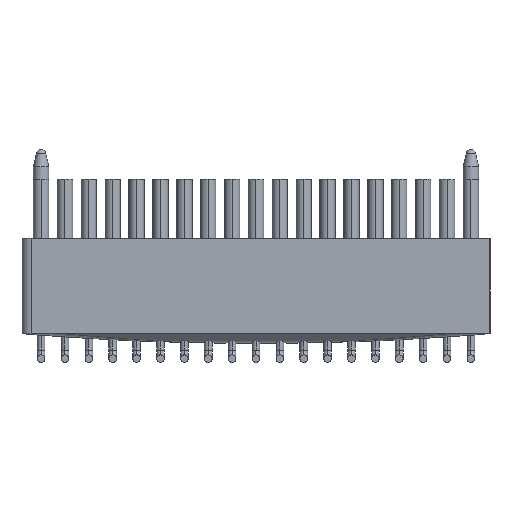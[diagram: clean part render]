
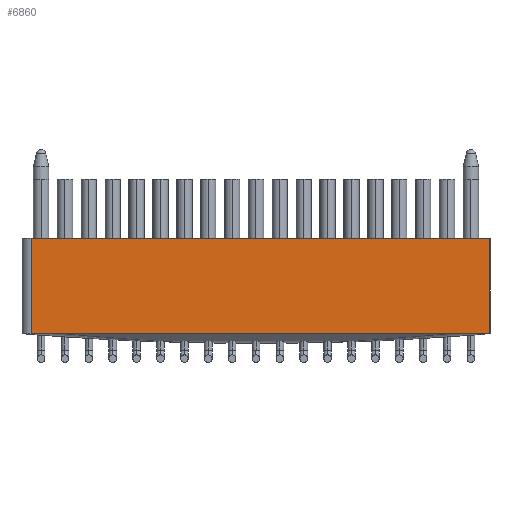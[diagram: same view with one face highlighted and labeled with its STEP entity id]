
A CAD part, front view. The second image highlights one B-rep face of the part: STEP entity #6860.
In plain terms, the highlighted planar face has unit normal (0, -1, 0).
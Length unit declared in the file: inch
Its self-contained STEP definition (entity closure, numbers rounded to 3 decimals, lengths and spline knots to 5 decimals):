
#490 = CARTESIAN_POINT ( 'NONE',  ( -0.235, -0.035, -0.05 ) ) ;
#684 = CARTESIAN_POINT ( 'NONE',  ( -0.245, -0.035, -0.05 ) ) ;
#1383 = ORIENTED_EDGE ( 'NONE', *, *, #22898, .F. ) ;
#1527 = LINE ( 'NONE', #684, #10428 ) ;
#1822 = LINE ( 'NONE', #9060, #20294 ) ;
#2771 = CARTESIAN_POINT ( 'NONE',  ( -0.245, -0.035, -0.05 ) ) ;
#3072 = DIRECTION ( 'NONE',  ( 0., 0., -1. ) ) ;
#3277 = EDGE_CURVE ( 'NONE', #19120, #13834, #22110, .T. ) ;
#3559 = CARTESIAN_POINT ( 'NONE',  ( -0.20198, -0.035, -0.05 ) ) ;
#5146 = VECTOR ( 'NONE', #13475, 39.37008 ) ;
#6391 = EDGE_CURVE ( 'NONE', #20004, #20027, #9891, .T. ) ;
#6596 = DIRECTION ( 'NONE',  ( -1., 0., 0. ) ) ;
#6860 = ADVANCED_FACE ( 'NONE', ( #10996 ), #8273, .T. ) ;
#7042 = ORIENTED_EDGE ( 'NONE', *, *, #20343, .T. ) ;
#7449 = EDGE_CURVE ( 'NONE', #17746, #13834, #1527, .T. ) ;
#7827 = EDGE_LOOP ( 'NONE', ( #18369, #7042, #23117, #10234, #21144, #1383 ) ) ;
#8273 = PLANE ( 'NONE',  #13446 ) ;
#9060 = CARTESIAN_POINT ( 'NONE',  ( 0.245, -0.035, -0.05 ) ) ;
#9334 = DIRECTION ( 'NONE',  ( 0., 0., -1. ) ) ;
#9793 = VECTOR ( 'NONE', #6596, 39.37008 ) ;
#9891 = LINE ( 'NONE', #2771, #5146 ) ;
#10172 = CARTESIAN_POINT ( 'NONE',  ( -0.245, -0.035, -0.05 ) ) ;
#10234 = ORIENTED_EDGE ( 'NONE', *, *, #3277, .T. ) ;
#10428 = VECTOR ( 'NONE', #11424, 39.37008 ) ;
#10798 = LINE ( 'NONE', #17118, #19782 ) ;
#10996 = FACE_OUTER_BOUND ( 'NONE', #7827, .T. ) ;
#11157 = CARTESIAN_POINT ( 'NONE',  ( -0.235, -0.035, -0.05 ) ) ;
#11424 = DIRECTION ( 'NONE',  ( -1., 0., 0. ) ) ;
#11913 = CARTESIAN_POINT ( 'NONE',  ( 0.2425, -0.035, -0.05 ) ) ;
#12534 = VECTOR ( 'NONE', #9334, 39.37008 ) ;
#13446 = AXIS2_PLACEMENT_3D ( 'NONE', #10172, #13773, #3072 ) ;
#13475 = DIRECTION ( 'NONE',  ( -1., 0., 0. ) ) ;
#13773 = DIRECTION ( 'NONE',  ( 0., -1., 0. ) ) ;
#13834 = VERTEX_POINT ( 'NONE', #11157 ) ;
#14550 = LINE ( 'NONE', #11913, #9793 ) ;
#15240 = CARTESIAN_POINT ( 'NONE',  ( -0.235, -0.035, 0.05 ) ) ;
#15302 = DIRECTION ( 'NONE',  ( 1., 0., 0. ) ) ;
#16273 = DIRECTION ( 'NONE',  ( 0., 0., 1. ) ) ;
#16850 = CARTESIAN_POINT ( 'NONE',  ( 0.20198, -0.035, -0.05 ) ) ;
#17118 = CARTESIAN_POINT ( 'NONE',  ( -0.245, -0.035, 0.05 ) ) ;
#17746 = VERTEX_POINT ( 'NONE', #3559 ) ;
#18369 = ORIENTED_EDGE ( 'NONE', *, *, #6391, .F. ) ;
#18597 = CARTESIAN_POINT ( 'NONE',  ( 0.245, -0.035, -0.05 ) ) ;
#18701 = EDGE_CURVE ( 'NONE', #19120, #22036, #10798, .T. ) ;
#19120 = VERTEX_POINT ( 'NONE', #15240 ) ;
#19782 = VECTOR ( 'NONE', #15302, 39.37008 ) ;
#20004 = VERTEX_POINT ( 'NONE', #18597 ) ;
#20027 = VERTEX_POINT ( 'NONE', #16850 ) ;
#20294 = VECTOR ( 'NONE', #16273, 39.37008 ) ;
#20343 = EDGE_CURVE ( 'NONE', #20004, #22036, #1822, .T. ) ;
#21144 = ORIENTED_EDGE ( 'NONE', *, *, #7449, .F. ) ;
#21548 = CARTESIAN_POINT ( 'NONE',  ( 0.245, -0.035, 0.05 ) ) ;
#22036 = VERTEX_POINT ( 'NONE', #21548 ) ;
#22110 = LINE ( 'NONE', #490, #12534 ) ;
#22898 = EDGE_CURVE ( 'NONE', #20027, #17746, #14550, .T. ) ;
#23117 = ORIENTED_EDGE ( 'NONE', *, *, #18701, .F. ) ;
